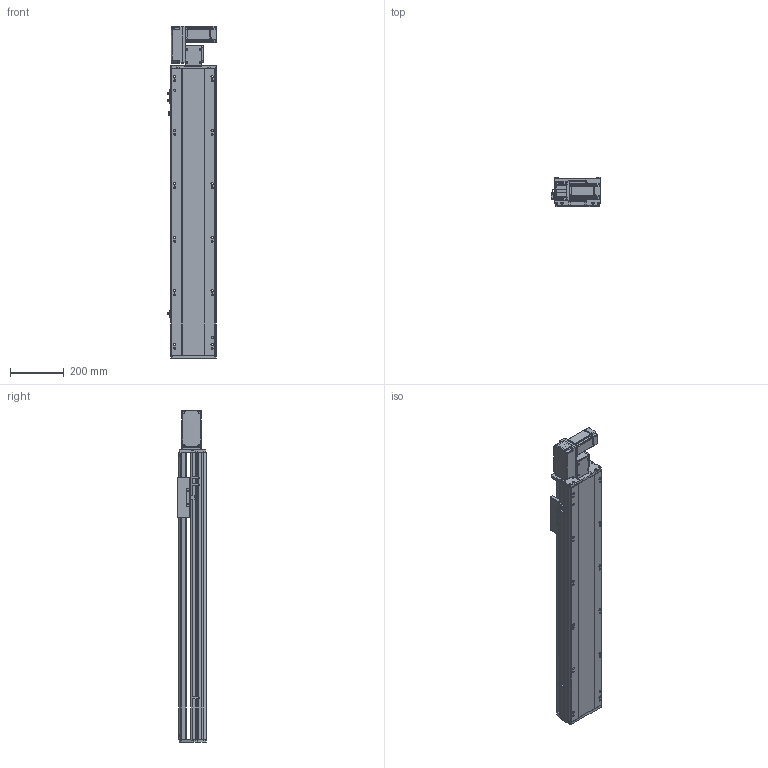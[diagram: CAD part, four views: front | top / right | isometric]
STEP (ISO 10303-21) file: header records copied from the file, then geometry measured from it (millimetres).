
FILE_DESCRIPTION (( 'STEP AP214' ), '1' );
FILE_NAME ('RTB17S-XX-800-L-M40-C4.STEP', '2025-12-11T05:32:38', ( '' ), ( '' ), 'SwSTEP 2.0', 'SolidWorks 2018', '' );
FILE_SCHEMA (( 'AUTOMOTIVE_DESIGN' ));
Length unit declared in the file: millimetre
Products named in the file (14): RTB14-L-017P^RTB17S-L-皮带座装配-400W_RTB17S-XX-XX-L-M40-C4（方程式）; RTB14-L-005P--轴承塑胶压盖^RTB17S-L-皮带座装配-400W_RTB17S-XX-XX-L-M40-C4（方程式）; RMP17S-L-014-T20--皮带座^RTB17S-L-皮带座装配-400W_RTB17S-XX-XX-L-M40-C4（方程式）; 400W伺服电机^RTB17S-XX-XX-L-M40-C4（方程式）; RTB17S-L-001侧面板^RTB17S-XX-XX-L-M40-C4（方程式）; RTB17S-L-007上盖^RTB17S-XX-XX-L-M40-C4（方程式）; RTB17S-L-004丝杆螺母连接座^RTB17S-XX-XX-L-M40-C4（方程式）; RTB14-L-018P^RTB17S-L-皮带座装配-400W_RTB17S-XX-XX-L-M40-C4（方程式）; RTH13-BL-012感应片外置^RTB17S-XX-XX-L-M40-C4（方程式）; OMRON EE-SX672 传感器^RTB17S-XX-XX-L-M40-C4（方程式）; RTB14-L-008-M20--电机板^RTB17S-L-皮带座装配-400W_RTB17S-XX-XX-L-M40-C4（方程式）; RTB17-R-011底座^RTB17S-XX-XX-L-M40-C4（方程式）; RTB17S-XX-800-L-M40-C4; RTB17S-L-皮带座装配-400W^RTB17S-XX-XX-L-M40-C4（方程式）
Assembly tree (16 placements, depth 3):
  RTB17S-XX-800-L-M40-C4
    RTB17-R-011底座^RTB17S-XX-XX-L-M40-C4（方程式）
    RTB17S-L-007上盖^RTB17S-XX-XX-L-M40-C4（方程式）
    OMRON EE-SX672 传感器^RTB17S-XX-XX-L-M40-C4（方程式）  x3
    RTB17S-L-001侧面板^RTB17S-XX-XX-L-M40-C4（方程式）
    400W伺服电机^RTB17S-XX-XX-L-M40-C4（方程式）
    RTB17S-L-004丝杆螺母连接座^RTB17S-XX-XX-L-M40-C4（方程式）
    RTH13-BL-012感应片外置^RTB17S-XX-XX-L-M40-C4（方程式）
    RTB17S-L-皮带座装配-400W^RTB17S-XX-XX-L-M40-C4（方程式）
      RMP17S-L-014-T20--皮带座^RTB17S-L-皮带座装配-400W_RTB17S-XX-XX-L-M40-C4（方程式）
      RTB14-L-005P--轴承塑胶压盖^RTB17S-L-皮带座装配-400W_RTB17S-XX-XX-L-M40-C4（方程式）
      RTB14-L-008-M20--电机板^RTB17S-L-皮带座装配-400W_RTB17S-XX-XX-L-M40-C4（方程式）
      RTB14-L-017P^RTB17S-L-皮带座装配-400W_RTB17S-XX-XX-L-M40-C4（方程式）  x2
      RTB14-L-018P^RTB17S-L-皮带座装配-400W_RTB17S-XX-XX-L-M40-C4（方程式）
Bounding box: 186 x 108 x 1241 mm (x, y, z)
Volume: 10746006.8 mm3; surface area: 1319307.2 mm2
Topology: 15 solids, 15 shells, 2189 faces, 6033 edges, 3933 vertices
Faces by surface type: plane 1066, cylinder 675, bspline 301, cone 139, torus 8
Entity records: 61865 total; most frequent: CARTESIAN_POINT 17238, ORIENTED_EDGE 8910, DIRECTION 8306, EDGE_CURVE 4455, VERTEX_POINT 2921, AXIS2_PLACEMENT_3D 2851, LINE 2604, VECTOR 2604
